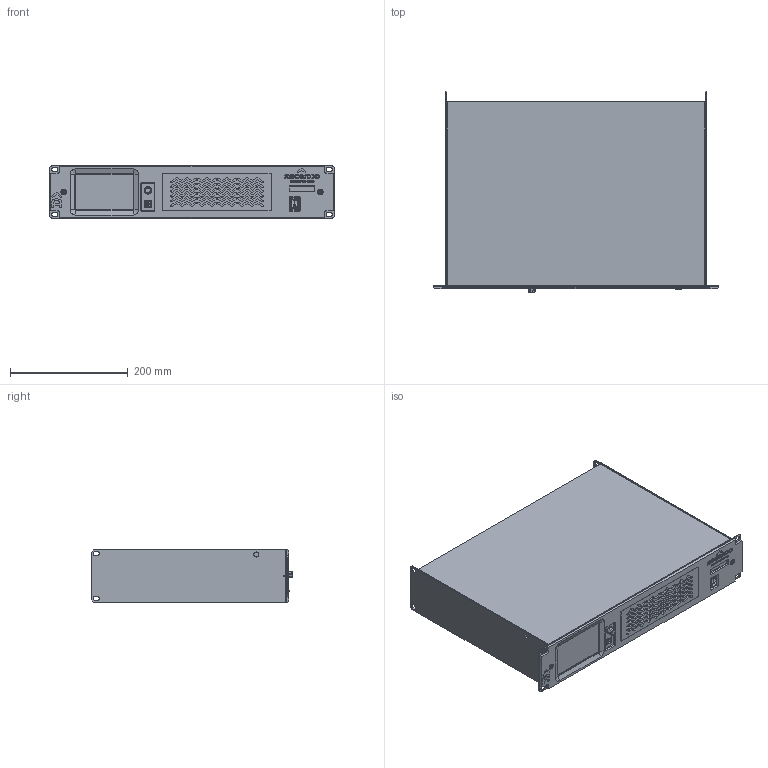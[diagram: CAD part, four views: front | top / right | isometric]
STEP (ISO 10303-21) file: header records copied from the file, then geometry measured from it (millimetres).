
FILE_DESCRIPTION(/* description */ (''),/* implementation_level */ '2;1');
FILE_NAME(/* name */ '3D Drawings_DSP4-10K2.step',/* time_stamp */ '2025-09-14T22:32:27+02:00',/* author */ (''),/* organization */ (''),/* preprocessor_version */ 'ST-DEVELOPER v20.1',/* originating_system */ 'Autodesk Translation Framework v14.17.0.0',/* authorisation */ '');
FILE_SCHEMA (('AUTOMOTIVE_DESIGN { 1 0 10303 214 3 1 1 }'));
Products named in the file (8): 3D Drawings_DSP4-10K2; DSP4-10K2; Rocker Switch - Arcolectric H8550VB; Arcolectric H8550VB Rocker Switch Housing; Arcolectric H8550VB Rocker Switch Rocker; Arcolectric H8550VB Rocker Switch Terminal; 91290A138_Alloy Steel Socket Head Screw; USB B FEMALE
Assembly tree (10 placements, depth 4):
  3D Drawings_DSP4-10K2
    DSP4-10K2
      Rocker Switch - Arcolectric H8550VB
        Arcolectric H8550VB Rocker Switch Housing
        Arcolectric H8550VB Rocker Switch Rocker
        Arcolectric H8550VB Rocker Switch Terminal  x4
      91290A138_Alloy Steel Socket Head Screw
      USB B FEMALE
Bounding box: 483 x 341.5 x 88.9 mm (x, y, z)
Volume: 12405250.6 mm3; surface area: 607748.5 mm2
Topology: 20 solids, 20 shells, 1954 faces, 5462 edges, 3590 vertices
Faces by surface type: plane 971, cylinder 494, bspline 420, cone 36, torus 25, sphere 8
Full cylindrical faces by diameter (mm): 1 x4, 1.6 x1, 2 x2, 2.6 x1, 3.091 x12, 4 x10, 7 x2, 8.5 x3, 12.5 x1
Entity records: 65939 total; most frequent: CARTESIAN_POINT 18107, ORIENTED_EDGE 10568, DIRECTION 9065, EDGE_CURVE 5284, VERTEX_POINT 3482, LINE 3337, VECTOR 3337, AXIS2_PLACEMENT_3D 2864
